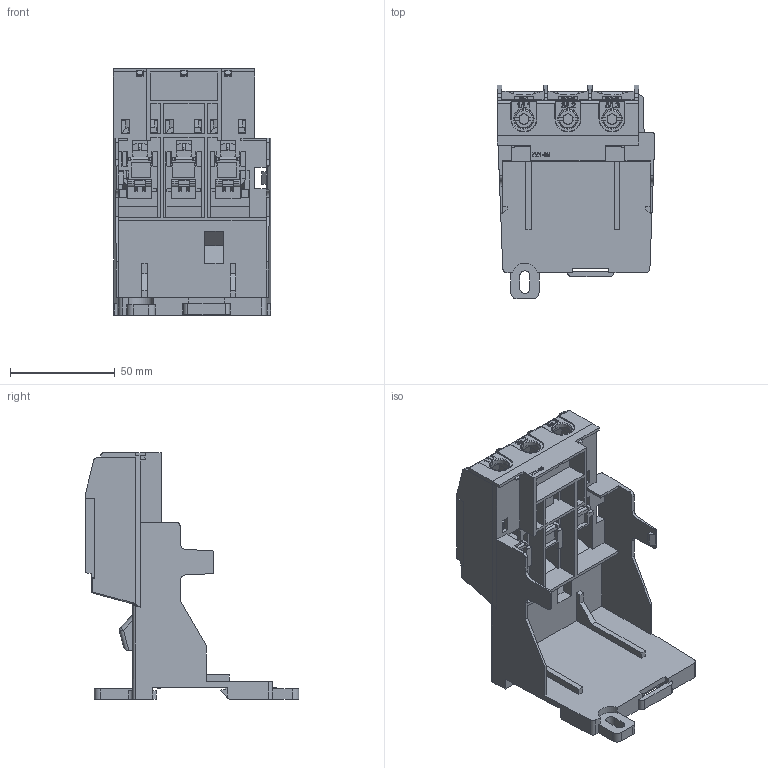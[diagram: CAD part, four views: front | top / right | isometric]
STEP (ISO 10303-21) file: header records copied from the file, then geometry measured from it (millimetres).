
FILE_DESCRIPTION (( 'STEP AP214' ), '1' );
FILE_NAME ('TENGEN_FZ1-95.STEP', '2026-03-26T11:29:27', ( '' ), ( '' ), 'SwSTEP 2.0', 'SolidWorks 2024', '' );
FILE_SCHEMA (( 'AUTOMOTIVE_DESIGN' ));
Length unit declared in the file: millimetre
Products named in the file (13): 8TZD-929-LUOSHUANG.stp; 8TZD_307_1020.stp; 5TZD_574_1028_AF2_ASM.stp; 8TZD_261_3002_2.stp; TENGEN_FZ1-95.stp; TENGEN_FZ1-95; JIEXIANZUO.stp; 8TZD_260_1040.stp; 5TZD_574_1028_AF1_ASM.stp; 8TZD_585_1375.stp; 5TZD_574_1028_AF0_ASM.stp; 8TZD_064_1089.stp; 8TZD_282_3001_AF0.stp
Assembly tree (20 placements, depth 4):
  TENGEN_FZ1-95
    TENGEN_FZ1-95.stp
      5TZD_574_1028_AF0_ASM.stp
        JIEXIANZUO.stp
        8TZD-929-LUOSHUANG.stp
        8TZD_260_1040.stp
      5TZD_574_1028_AF1_ASM.stp
        JIEXIANZUO.stp
        8TZD-929-LUOSHUANG.stp
        8TZD_260_1040.stp
      5TZD_574_1028_AF2_ASM.stp
        JIEXIANZUO.stp
        8TZD-929-LUOSHUANG.stp
        8TZD_260_1040.stp
      8TZD_064_1089.stp
      8TZD_585_1375.stp  x3
      8TZD_261_3002_2.stp
      8TZD_282_3001_AF0.stp
      8TZD_307_1020.stp
Bounding box: 75.2 x 101.7 x 117.6 mm (x, y, z)
Volume: 93986.8 mm3; surface area: 93167.2 mm2
Topology: 19 solids, 19 shells, 2409 faces, 6586 edges, 4247 vertices
Faces by surface type: plane 1908, cylinder 304, bspline 154, sphere 28, cone 12, torus 3
Entity records: 65033 total; most frequent: CARTESIAN_POINT 18054, ORIENTED_EDGE 10304, DIRECTION 8578, EDGE_CURVE 5152, VECTOR 4404, LINE 4404, VERTEX_POINT 3367, AXIS2_PLACEMENT_3D 2087
